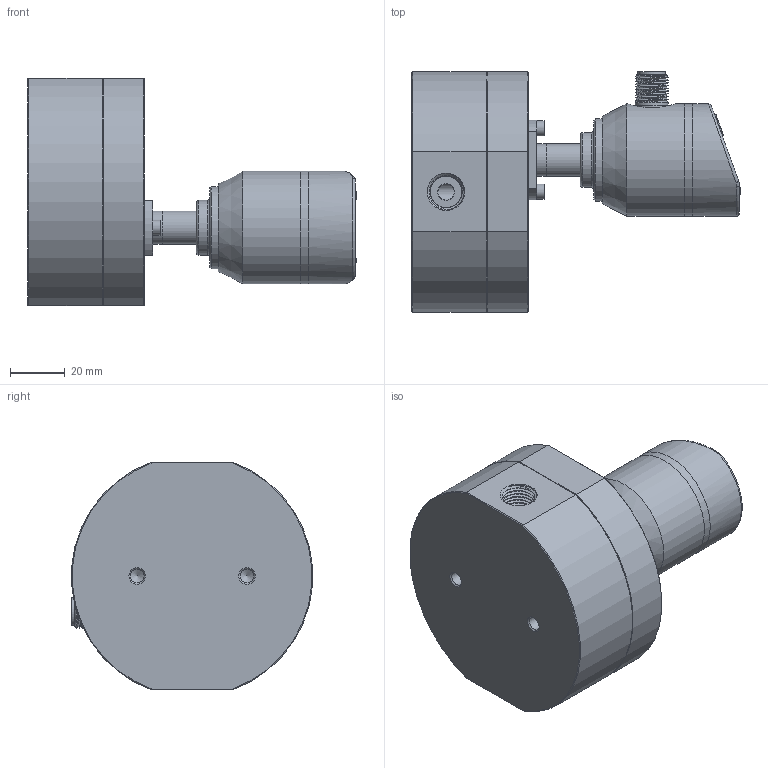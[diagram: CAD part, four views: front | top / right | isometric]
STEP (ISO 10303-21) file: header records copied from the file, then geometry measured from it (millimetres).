
FILE_DESCRIPTION( (''), '2;1');
FILE_NAME( 'QZKA_M2_G1-4.step', '2026-05-28T09:22:33+08:00', (''), (''), '', '', '');
FILE_SCHEMA (('AP203_CONFIGURATION_CONTROLLED_3D_DESIGN_OF_MECHANICAL_PARTS_AND_ASSEMBLIES_MIM_LF { 1 0 10303 403 2 1 2}'));
Length unit declared in the file: millimetre
Products named in the file (1): QZKA M2_G1-4
Bounding box: 119.7 x 87.75 x 83 mm (x, y, z)
Volume: 286005.2 mm3; surface area: 74488.4 mm2
Topology: 17 solids, 18 shells, 770 faces, 1653 edges, 983 vertices
Faces by surface type: plane 318, cylinder 201, cone 154, torus 59, bspline 32, sphere 6
Full cylindrical faces by diameter (mm): 1 x5, 2.7 x4, 2.874 x4, 3.5 x2, 4 x4, 5 x10, 5.1 x8, 5.5 x2, 5.795 x8, 6 x2, 6.5 x10, 8 x2, 8.4 x1, 9.7 x1, 9.8 x1, 10 x11, 10.1 x1, 11 x8, 11.6 x1, 12 x3, 16.5 x1, 20 x1, 23 x3, 26 x4, 26.1 x1, 30 x1, 37 x1, 41 x3
Entity records: 36651 total; most frequent: CARTESIAN_POINT 19520, DIRECTION 3318, ORIENTED_EDGE 2764, AXIS2_PLACEMENT_3D 1389, EDGE_CURVE 1382, EDGE_LOOP 1070, VERTEX_POINT 936, ADVANCED_FACE 769
